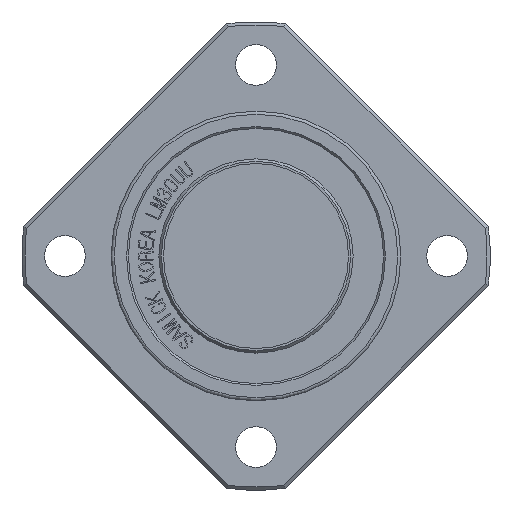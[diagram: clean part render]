
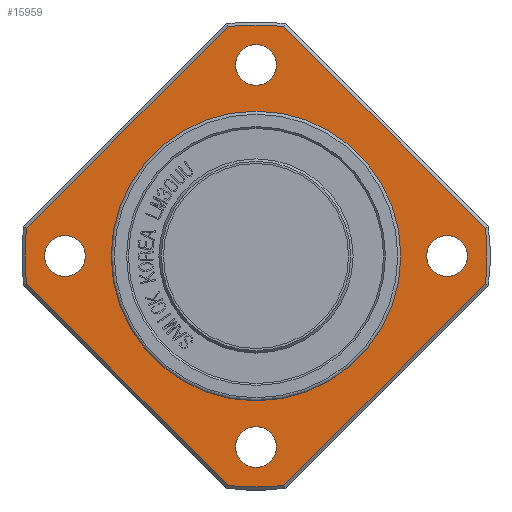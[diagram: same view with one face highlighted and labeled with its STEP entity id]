
A CAD part, front view. The second image highlights one B-rep face of the part: STEP entity #15959.
In plain terms, the highlighted planar face has unit normal (0, -1, 0).
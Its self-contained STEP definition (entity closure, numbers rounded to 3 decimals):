
#2299=FACE_BOUND('',#3377,.T.);
#2300=FACE_BOUND('',#3378,.T.);
#2301=FACE_BOUND('',#3379,.T.);
#2302=FACE_BOUND('',#3380,.T.);
#2303=FACE_BOUND('',#3381,.T.);
#2370=CIRCLE('',#16845,37.5);
#2373=CIRCLE('',#16853,37.5);
#2375=CIRCLE('',#16861,37.5);
#2377=CIRCLE('',#16867,37.5);
#2383=CIRCLE('',#16881,3.3);
#2387=CIRCLE('',#16888,3.3);
#2391=CIRCLE('',#16895,3.3);
#2395=CIRCLE('',#16902,3.3);
#2396=CIRCLE('',#16904,23.5);
#2397=CIRCLE('',#16905,23.5);
#2485=FACE_OUTER_BOUND('',#3376,.T.);
#3376=EDGE_LOOP('',(#10894,#10895,#10896,#10897,#10898,#10899,#10900,#10901));
#3377=EDGE_LOOP('',(#10902));
#3378=EDGE_LOOP('',(#10903));
#3379=EDGE_LOOP('',(#10904));
#3380=EDGE_LOOP('',(#10905));
#3381=EDGE_LOOP('',(#10906,#10907));
#4282=LINE('',#19086,#5432);
#4287=LINE('',#19117,#5437);
#4294=LINE('',#19160,#5444);
#4296=LINE('',#19171,#5446);
#5432=VECTOR('',#17218,10.);
#5437=VECTOR('',#17239,10.);
#5444=VECTOR('',#17264,10.);
#5446=VECTOR('',#17274,10.);
#6613=VERTEX_POINT('',#19075);
#6616=VERTEX_POINT('',#19082);
#6618=VERTEX_POINT('',#19090);
#6622=VERTEX_POINT('',#19113);
#6624=VERTEX_POINT('',#19121);
#6630=VERTEX_POINT('',#19152);
#6631=VERTEX_POINT('',#19156);
#6632=VERTEX_POINT('',#19162);
#6637=VERTEX_POINT('',#19196);
#6641=VERTEX_POINT('',#19209);
#6645=VERTEX_POINT('',#19222);
#6649=VERTEX_POINT('',#19235);
#6650=VERTEX_POINT('',#19239);
#6651=VERTEX_POINT('',#19240);
#8274=EDGE_CURVE('',#6616,#6613,#4282,.T.);
#8277=EDGE_CURVE('',#6616,#6618,#2370,.T.);
#8286=EDGE_CURVE('',#6622,#6618,#4287,.T.);
#8289=EDGE_CURVE('',#6622,#6624,#2373,.T.);
#8302=EDGE_CURVE('',#6631,#6630,#4294,.T.);
#8303=EDGE_CURVE('',#6632,#6630,#2375,.T.);
#8307=EDGE_CURVE('',#6632,#6624,#4296,.T.);
#8311=EDGE_CURVE('',#6631,#6613,#2377,.T.);
#8319=EDGE_CURVE('',#6637,#6637,#2383,.T.);
#8325=EDGE_CURVE('',#6641,#6641,#2387,.T.);
#8331=EDGE_CURVE('',#6645,#6645,#2391,.T.);
#8337=EDGE_CURVE('',#6649,#6649,#2395,.T.);
#8338=EDGE_CURVE('',#6650,#6651,#2396,.T.);
#8339=EDGE_CURVE('',#6651,#6650,#2397,.T.);
#10894=ORIENTED_EDGE('',*,*,#8274,.F.);
#10895=ORIENTED_EDGE('',*,*,#8277,.T.);
#10896=ORIENTED_EDGE('',*,*,#8286,.F.);
#10897=ORIENTED_EDGE('',*,*,#8289,.T.);
#10898=ORIENTED_EDGE('',*,*,#8307,.F.);
#10899=ORIENTED_EDGE('',*,*,#8303,.T.);
#10900=ORIENTED_EDGE('',*,*,#8302,.F.);
#10901=ORIENTED_EDGE('',*,*,#8311,.T.);
#10902=ORIENTED_EDGE('',*,*,#8319,.T.);
#10903=ORIENTED_EDGE('',*,*,#8325,.T.);
#10904=ORIENTED_EDGE('',*,*,#8331,.T.);
#10905=ORIENTED_EDGE('',*,*,#8337,.T.);
#10906=ORIENTED_EDGE('',*,*,#8338,.F.);
#10907=ORIENTED_EDGE('',*,*,#8339,.F.);
#15705=PLANE('',#16903);
#15959=ADVANCED_FACE('',(#2485,#2299,#2300,#2301,#2302,#2303),#15705,.T.);
#16845=AXIS2_PLACEMENT_3D('',#19094,#17223,#17224);
#16853=AXIS2_PLACEMENT_3D('',#19125,#17244,#17245);
#16861=AXIS2_PLACEMENT_3D('',#19163,#17267,#17268);
#16867=AXIS2_PLACEMENT_3D('',#19178,#17284,#17285);
#16881=AXIS2_PLACEMENT_3D('',#19198,#17314,#17315);
#16888=AXIS2_PLACEMENT_3D('',#19211,#17330,#17331);
#16895=AXIS2_PLACEMENT_3D('',#19224,#17346,#17347);
#16902=AXIS2_PLACEMENT_3D('',#19237,#17362,#17363);
#16903=AXIS2_PLACEMENT_3D('',#19238,#17364,#17365);
#16904=AXIS2_PLACEMENT_3D('',#19241,#17366,#17367);
#16905=AXIS2_PLACEMENT_3D('',#19242,#17368,#17369);
#17218=DIRECTION('',(-0.707,0.,0.707));
#17223=DIRECTION('center_axis',(0.,-1.,0.));
#17224=DIRECTION('ref_axis',(1.,0.,0.));
#17239=DIRECTION('',(-0.707,0.,-0.707));
#17244=DIRECTION('center_axis',(0.,-1.,0.));
#17245=DIRECTION('ref_axis',(1.,0.,0.));
#17264=DIRECTION('',(0.707,0.,0.707));
#17267=DIRECTION('center_axis',(0.,-1.,0.));
#17268=DIRECTION('ref_axis',(1.,0.,0.));
#17274=DIRECTION('',(0.707,0.,-0.707));
#17284=DIRECTION('center_axis',(0.,-1.,0.));
#17285=DIRECTION('ref_axis',(1.,0.,0.));
#17314=DIRECTION('center_axis',(0.,1.,0.));
#17315=DIRECTION('ref_axis',(0.,0.,
1.));
#17330=DIRECTION('center_axis',(0.,1.,0.));
#17331=DIRECTION('ref_axis',(-1.,0.,0.));
#17346=DIRECTION('center_axis',(0.,1.,0.));
#17347=DIRECTION('ref_axis',(0.,0.,
-1.));
#17362=DIRECTION('center_axis',(0.,1.,0.));
#17363=DIRECTION('ref_axis',(1.,0.,0.));
#17364=DIRECTION('center_axis',(0.,-1.,0.));
#17365=DIRECTION('ref_axis',(0.,0.,-1.));
#17366=DIRECTION('center_axis',(0.,-1.,0.));
#17367=DIRECTION('ref_axis',(1.,0.,0.));
#17368=DIRECTION('center_axis',(0.,-1.,0.));
#17369=DIRECTION('ref_axis',(1.,0.,0.));
#19075=CARTESIAN_POINT('',(-37.23,-5.,-4.489));
#19082=CARTESIAN_POINT('',(-4.489,-5.,-37.23));
#19086=CARTESIAN_POINT('',(-4.378,-5.,-37.341));
#19090=CARTESIAN_POINT('',(4.489,-5.,-37.23));
#19094=CARTESIAN_POINT('Origin',(0.,-5.,0.));
#19113=CARTESIAN_POINT('',(37.23,-5.,-4.489));
#19117=CARTESIAN_POINT('',(37.341,-5.,-4.378));
#19121=CARTESIAN_POINT('',(37.23,-5.,4.489));
#19125=CARTESIAN_POINT('Origin',(0.,-5.,0.));
#19152=CARTESIAN_POINT('',(-4.489,-5.,37.23));
#19156=CARTESIAN_POINT('',(-37.23,-5.,4.489));
#19160=CARTESIAN_POINT('',(-25.591,-5.,16.128));
#19162=CARTESIAN_POINT('',(4.489,-5.,37.23));
#19163=CARTESIAN_POINT('Origin',(0.,-5.,0.));
#19171=CARTESIAN_POINT('',(16.128,-5.,25.591));
#19178=CARTESIAN_POINT('Origin',(0.,-5.,0.));
#19196=CARTESIAN_POINT('',(0.,-5.,27.7));
#19198=CARTESIAN_POINT('Origin',(0.,-5.,31.));
#19209=CARTESIAN_POINT('',(-27.7,-5.,0.));
#19211=CARTESIAN_POINT('Origin',(-31.,-5.,0.));
#19222=CARTESIAN_POINT('',(0.,-5.,-27.7));
#19224=CARTESIAN_POINT('Origin',(0.,-5.,-31.));
#19235=CARTESIAN_POINT('',(27.7,-5.,0.));
#19237=CARTESIAN_POINT('Origin',(31.,-5.,0.));
#19238=CARTESIAN_POINT('Origin',(23.5,-5.,0.));
#19239=CARTESIAN_POINT('',(23.5,-5.,0.));
#19240=CARTESIAN_POINT('',(-23.5,-5.,0.));
#19241=CARTESIAN_POINT('Origin',(0.,-5.,0.));
#19242=CARTESIAN_POINT('Origin',(0.,-5.,0.));
